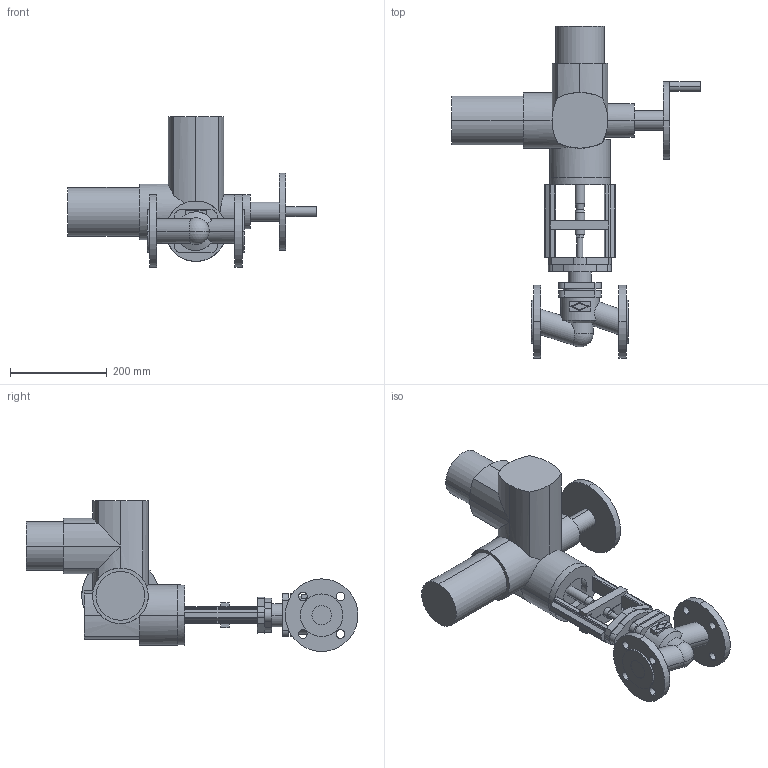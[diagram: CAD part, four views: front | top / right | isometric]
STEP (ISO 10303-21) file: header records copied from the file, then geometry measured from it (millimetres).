
FILE_DESCRIPTION(('OneSpaceDesigner STEP Export'),'2;1');
FILE_NAME('c000003095.stp','2007-01-09T11:38:33',(''),(''),'OneSpace Designer STEP processor for AP214 (Solid Model)','OneSpace Designer 14.00B 27-May-2006 (C) CoCreate Software GmbH','');
FILE_SCHEMA(('AUTOMOTIVE_DESIGN { 1 0 10303 214 1 1 1 1 }'));
Length unit declared in the file: millimetre
Products named in the file (3): 1; 2; 3
Bounding box: 514 x 686 x 312 mm (x, y, z)
Volume: 10032872.8 mm3; surface area: 635458 mm2
Topology: 3 solids, 3 shells, 265 faces, 677 edges, 432 vertices
Faces by surface type: cylinder 132, plane 125, cone 6, sphere 2
Entity records: 7922 total; most frequent: CARTESIAN_POINT 1836, ORIENTED_EDGE 1350, DIRECTION 1137, EDGE_CURVE 675, VERTEX_POINT 432, AXIS2_PLACEMENT_3D 382, VECTOR 373, LINE 373
